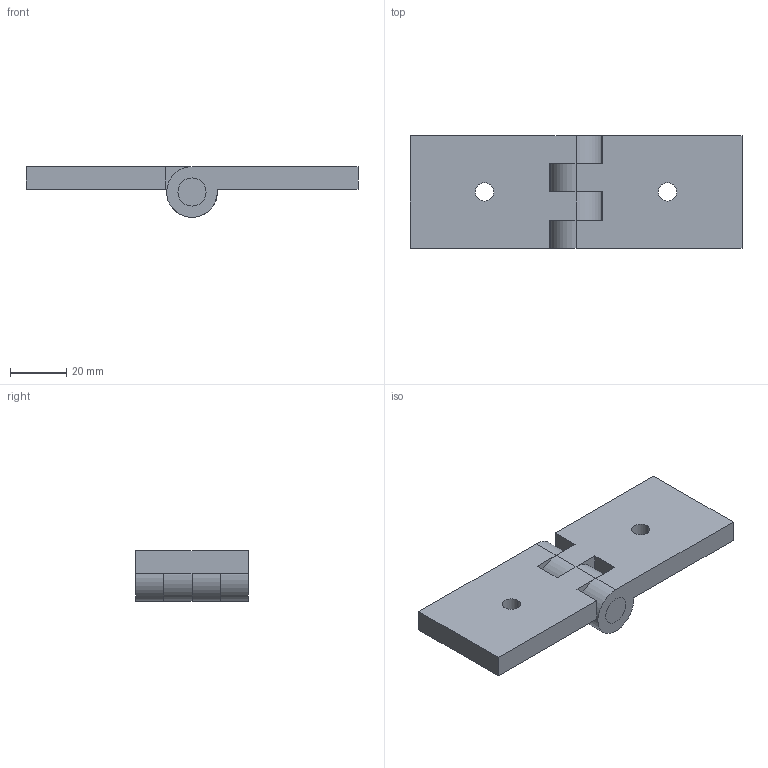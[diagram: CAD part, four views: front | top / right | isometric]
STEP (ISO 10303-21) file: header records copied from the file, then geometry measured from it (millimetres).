
FILE_DESCRIPTION((''),'2;1');
FILE_NAME('CE6060_ASM','2002-12-27T',('Lipro doo'),('Lipro d.o.o.'),'PRO/ENGINEER BY PARAMETRIC TECHNOLOGY CORPORATION, 2001150','PRO/ENGINEER BY PARAMETRIC TECHNOLOGY CORPORATION, 2001150','');
FILE_SCHEMA(('CONFIG_CONTROL_DESIGN'));
Length unit declared in the file: millimetre
Products named in the file (3): OS_FI10X40; CE60_1; CE6060_ASM
Assembly tree (3 placements, depth 2):
  CE6060_ASM
    OS_FI10X40
    CE60_1  x2
Bounding box: 118 x 40 x 17.99 mm (x, y, z)
Volume: 41842.5 mm3; surface area: 16993.6 mm2
Topology: 3 solids, 3 shells, 44 faces, 110 edges, 72 vertices
Faces by surface type: plane 22, cylinder 18, cone 4
Entity records: 821 total; most frequent: DIRECTION 140, CARTESIAN_POINT 126, ORIENTED_EDGE 116, EDGE_CURVE 58, AXIS2_PLACEMENT_3D 52, VERTEX_POINT 38, VECTOR 36, LINE 36
